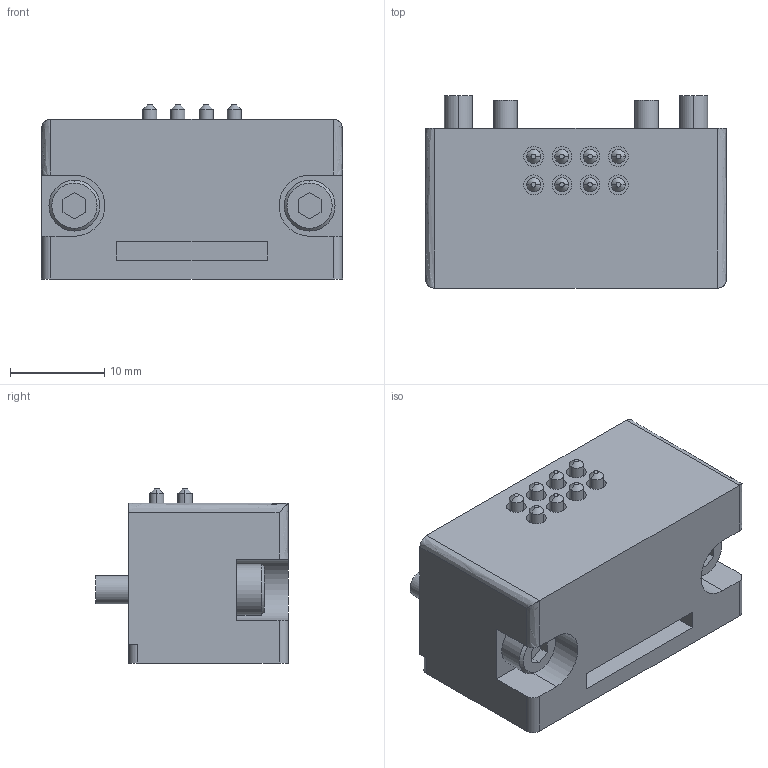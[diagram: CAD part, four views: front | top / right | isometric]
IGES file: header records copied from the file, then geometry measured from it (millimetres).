
Start section: 3D InterOp IGES (v. 2022 1.0.0), Spatial Corp. Copyright (c) 1999-2020.
Global section: file name: KHF-12HS-D38_ver1.igs; native system: Spatial Corp.; preprocessor: 3D InterOp GENERIC/IGES 3.0; author: Noname; organization: Noname; date: 20260427.105248; units: millimetre
Bounding box: 32 x 20.5 x 18.5 mm (x, y, z)
Surface area: 4197.3 mm2 (no closed solid volume)
Topology: 0 solids, 0 shells, 228 faces, 1058 edges, 1058 vertices
Faces by surface type: extrusion 117, revolution 111
